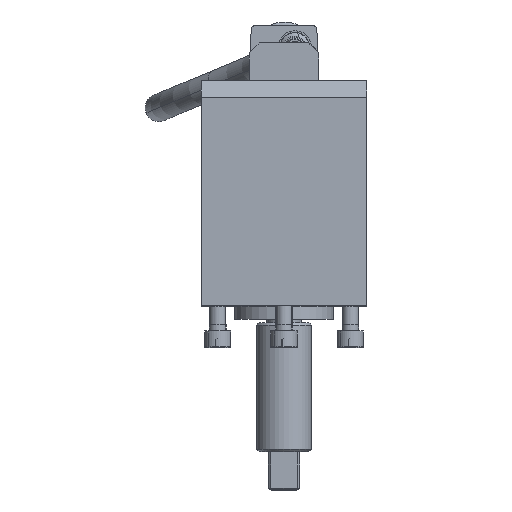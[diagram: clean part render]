
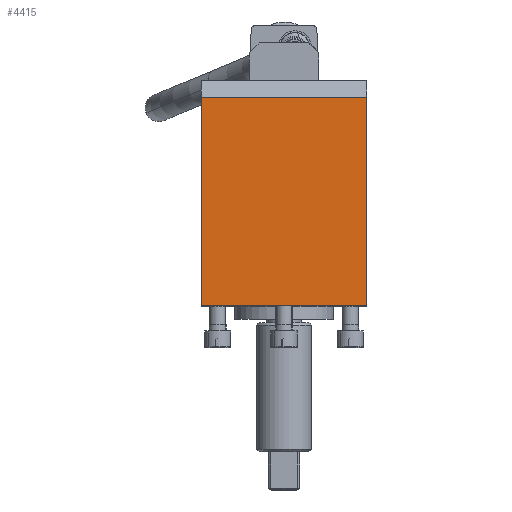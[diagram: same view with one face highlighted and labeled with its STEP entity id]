
A CAD part, top view. The second image highlights one B-rep face of the part: STEP entity #4415.
In plain terms, the highlighted planar face has unit normal (0, 0, 1).
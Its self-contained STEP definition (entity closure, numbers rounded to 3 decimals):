
#4381=AXIS2_PLACEMENT_3D('Plane Axis2P3D',#4378,#4379,#4380) ;
#3753=CARTESIAN_POINT('Line Origine',(0.,-86.,594.3)) ;
#3757=CARTESIAN_POINT('Vertex',(50.,-86.,594.3)) ;
#3759=CARTESIAN_POINT('Vertex',(-50.,-86.,594.3)) ;
#4349=CARTESIAN_POINT('Vertex',(-50.,40.,594.3)) ;
#4352=CARTESIAN_POINT('Line Origine',(0.,40.,594.3)) ;
#4356=CARTESIAN_POINT('Vertex',(50.,40.,594.3)) ;
#4378=CARTESIAN_POINT('Axis2P3D Location',(0.,-59.,594.3)) ;
#4383=CARTESIAN_POINT('Line Origine',(50.,-72.5,594.3)) ;
#4387=CARTESIAN_POINT('Vertex',(50.,-59.,594.3)) ;
#4390=CARTESIAN_POINT('Line Origine',(50.,-9.5,594.3)) ;
#4395=CARTESIAN_POINT('Line Origine',(-50.,-9.5,594.3)) ;
#4399=CARTESIAN_POINT('Vertex',(-50.,-59.,594.3)) ;
#4402=CARTESIAN_POINT('Line Origine',(-50.,-72.5,594.3)) ;
#3754=DIRECTION('Vector Direction',(-1.,0.,0.)) ;
#4353=DIRECTION('Vector Direction',(-1.,0.,0.)) ;
#4379=DIRECTION('Axis2P3D Direction',(0.,0.,1.)) ;
#4380=DIRECTION('Axis2P3D XDirection',(0.,1.,0.)) ;
#4384=DIRECTION('Vector Direction',(0.,-1.,0.)) ;
#4391=DIRECTION('Vector Direction',(0.,1.,0.)) ;
#4396=DIRECTION('Vector Direction',(0.,1.,0.)) ;
#4403=DIRECTION('Vector Direction',(0.,-1.,0.)) ;
#3755=VECTOR('Line Direction',#3754,1.) ;
#4354=VECTOR('Line Direction',#4353,1.) ;
#4385=VECTOR('Line Direction',#4384,1.) ;
#4392=VECTOR('Line Direction',#4391,1.) ;
#4397=VECTOR('Line Direction',#4396,1.) ;
#4404=VECTOR('Line Direction',#4403,1.) ;
#4408=ORIENTED_EDGE('',*,*,#4389,.F.) ;
#4409=ORIENTED_EDGE('',*,*,#4394,.F.) ;
#4410=ORIENTED_EDGE('',*,*,#4358,.T.) ;
#4411=ORIENTED_EDGE('',*,*,#4401,.T.) ;
#4412=ORIENTED_EDGE('',*,*,#4406,.T.) ;
#4413=ORIENTED_EDGE('',*,*,#3761,.F.) ;
#4415=ADVANCED_FACE('AW-325.1\\AW3125.1\\Hauptk\X2\00F6\X0\rper',(#4414),#4382,.T.) ;
#3761=EDGE_CURVE('',#3758,#3760,#3756,.T.) ;
#4358=EDGE_CURVE('',#4357,#4350,#4355,.T.) ;
#4389=EDGE_CURVE('',#4388,#3758,#4386,.T.) ;
#4394=EDGE_CURVE('',#4357,#4388,#4393,.F.) ;
#4401=EDGE_CURVE('',#4350,#4400,#4398,.F.) ;
#4406=EDGE_CURVE('',#4400,#3760,#4405,.T.) ;
#4407=EDGE_LOOP('',(#4408,#4409,#4410,#4411,#4412,#4413)) ;
#4414=FACE_OUTER_BOUND('',#4407,.T.) ;
#3756=LINE('Line',#3753,#3755) ;
#4355=LINE('Line',#4352,#4354) ;
#4386=LINE('Line',#4383,#4385) ;
#4393=LINE('Line',#4390,#4392) ;
#4398=LINE('Line',#4395,#4397) ;
#4405=LINE('Line',#4402,#4404) ;
#4382=PLANE('Plane',#4381) ;
#3758=VERTEX_POINT('',#3757) ;
#3760=VERTEX_POINT('',#3759) ;
#4350=VERTEX_POINT('',#4349) ;
#4357=VERTEX_POINT('',#4356) ;
#4388=VERTEX_POINT('',#4387) ;
#4400=VERTEX_POINT('',#4399) ;
